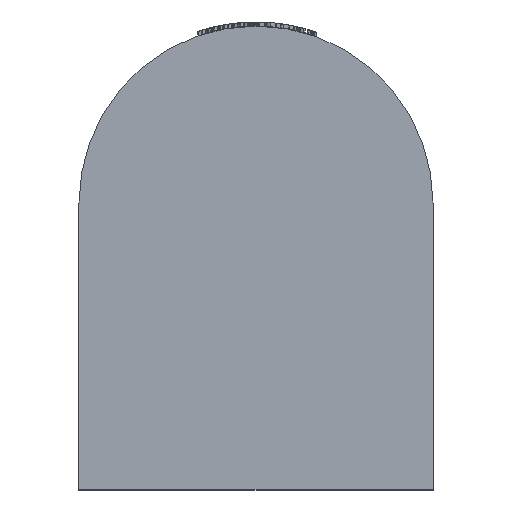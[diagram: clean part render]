
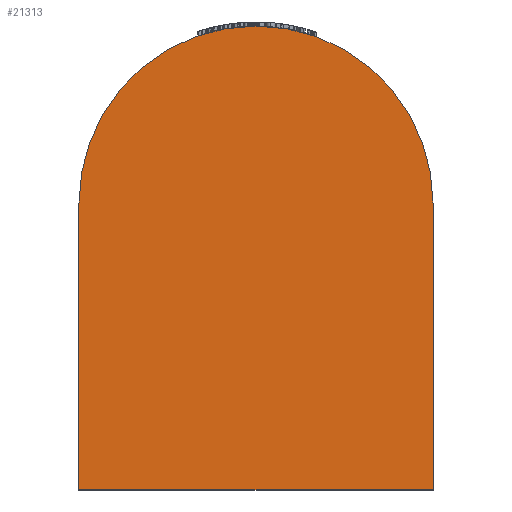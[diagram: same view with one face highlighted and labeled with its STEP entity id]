
A CAD part, top view. The second image highlights one B-rep face of the part: STEP entity #21313.
In plain terms, the highlighted planar face has unit normal (0, 0, 1).
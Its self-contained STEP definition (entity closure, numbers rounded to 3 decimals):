
#1515=PLANE('',#22683);
#2326=FACE_OUTER_BOUND('',#3580,.T.);
#3580=EDGE_LOOP('',(#15455,#15456,#15457,#15458));
#5170=CIRCLE('',#22682,42.);
#5805=LINE('',#31833,#7379);
#5808=LINE('',#31838,#7382);
#5810=LINE('',#31842,#7384);
#7379=VECTOR('',#25103,10.);
#7382=VECTOR('',#25108,10.);
#7384=VECTOR('',#25112,10.);
#9100=VERTEX_POINT('',#31831);
#9101=VERTEX_POINT('',#31832);
#9102=VERTEX_POINT('',#31837);
#9103=VERTEX_POINT('',#31841);
#11506=EDGE_CURVE('',#9100,#9101,#5805,.T.);
#11509=EDGE_CURVE('',#9101,#9102,#5808,.T.);
#11511=EDGE_CURVE('',#9102,#9103,#5810,.T.);
#11513=EDGE_CURVE('',#9103,#9100,#5170,.T.);
#15455=ORIENTED_EDGE('',*,*,#11506,.F.);
#15456=ORIENTED_EDGE('',*,*,#11513,.F.);
#15457=ORIENTED_EDGE('',*,*,#11511,.F.);
#15458=ORIENTED_EDGE('',*,*,#11509,.F.);
#21313=ADVANCED_FACE('',(#2326),#1515,.T.);
#22682=AXIS2_PLACEMENT_3D('',#31845,#25116,#25117);
#22683=AXIS2_PLACEMENT_3D('',#31846,#25118,#25119);
#25103=DIRECTION('',(0.,-1.,0.));
#25108=DIRECTION('',(-1.,0.,0.));
#25112=DIRECTION('',(0.,1.,0.));
#25116=DIRECTION('center_axis',(0.,0.,-1.));
#25117=DIRECTION('ref_axis',(-1.,0.,0.));
#25118=DIRECTION('center_axis',(0.,0.,1.));
#25119=DIRECTION('ref_axis',(1.,0.,0.));
#31831=CARTESIAN_POINT('',(42.,68.,49.));
#31832=CARTESIAN_POINT('',(42.,0.,49.));
#31833=CARTESIAN_POINT('',(42.,68.,49.));
#31837=CARTESIAN_POINT('',(-42.,0.,49.));
#31838=CARTESIAN_POINT('',(42.,0.,49.));
#31841=CARTESIAN_POINT('',(-42.,68.,49.));
#31842=CARTESIAN_POINT('',(-42.,0.,49.));
#31845=CARTESIAN_POINT('Origin',(0.,68.,49.));
#31846=CARTESIAN_POINT('Origin',(0.,47.67,
49.));
